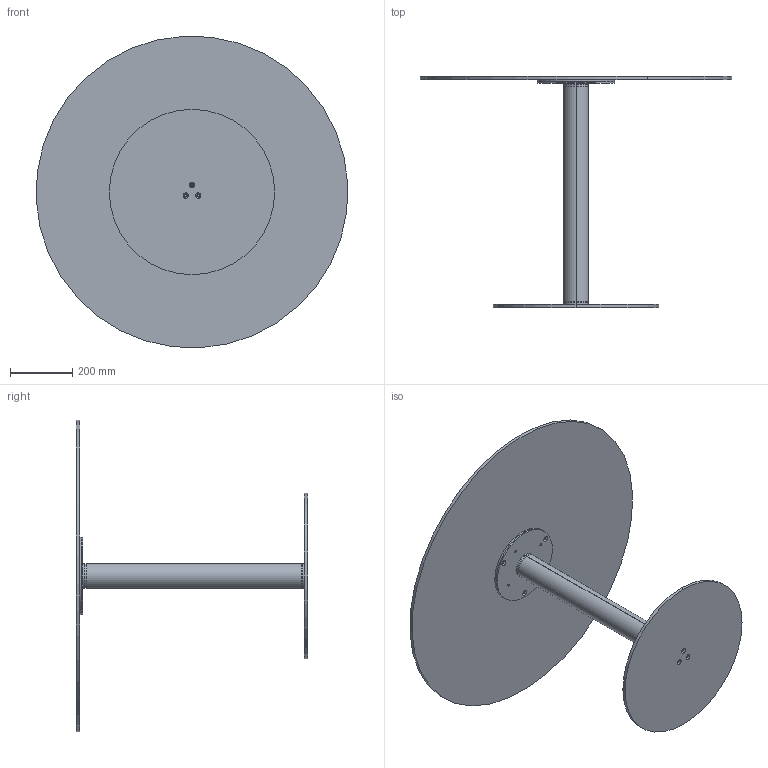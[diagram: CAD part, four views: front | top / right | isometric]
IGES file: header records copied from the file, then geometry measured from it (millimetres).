
Start section: SolidWorks IGES file using analytic representation for surfaces
Global section: file name: Y:\eforma\TECNICO\SOLIDWORKS\E-FORMA\5-TAVOLINI BISTRO\CILINDRO BISTRÒ\02 parts\CB35G.IGS; native system: SolidWorks 2022; preprocessor: SolidWorks 2022; author: eforma.tech; date: 240808.102533; units: millimetre
Bounding box: 998.81 x 741 x 998.81 mm (x, y, z)
Volume: 10983292.2 mm3; surface area: 2635196.3 mm2
Topology: 7 solids, 7 shells, 104 faces, 244 edges, 154 vertices
Faces by surface type: revolution 90, plane 14
